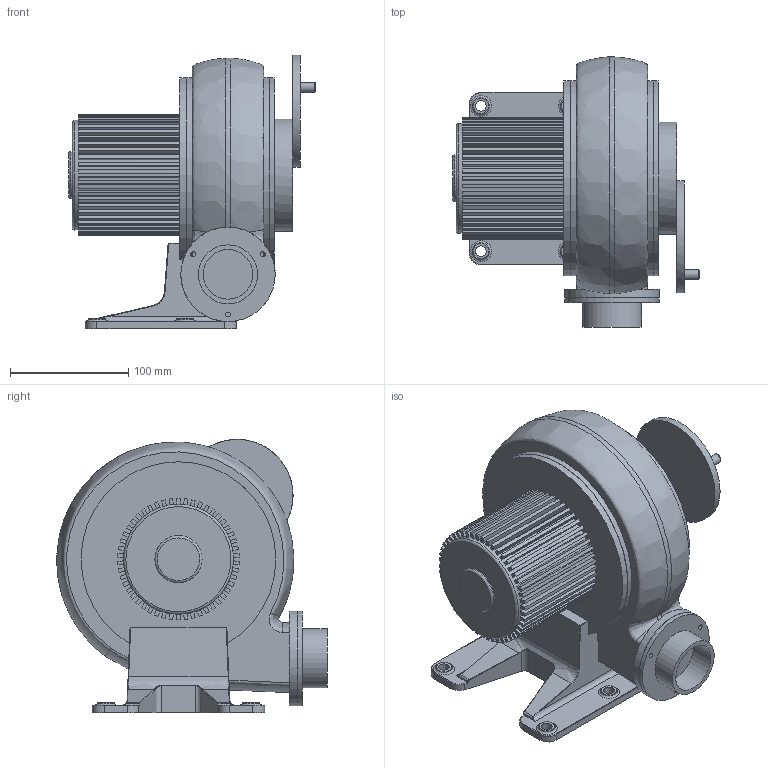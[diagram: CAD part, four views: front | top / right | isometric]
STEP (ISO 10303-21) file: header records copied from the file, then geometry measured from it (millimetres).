
FILE_DESCRIPTION(/* description */ ('Unknown'),/* implementation_level */ '2;1');
FILE_NAME(/* name */ '20200624 TS-200',/* time_stamp */ '2020-06-28T18:52:39+08:00',/* author */ ('å¤§èºè¨­è¨æéå¬å¸'),/* organization */ ('Unknown'),/* preprocessor_version */ 'ST-DEVELOPER v16.7',/* originating_system */ 'DEX',/* authorisation */ $);
FILE_SCHEMA (('AUTOMOTIVE_DESIGN {1 0 10303 214 3 1 1}'));
Length unit declared in the file: millimetre
Products named in the file (1): 20200624 TS-200
Bounding box: 209 x 229.04 x 231.5 mm (x, y, z)
Volume: 3431763.6 mm3; surface area: 260807.7 mm2
Topology: 1 solids, 1 shells, 378 faces, 1042 edges, 677 vertices
Faces by surface type: plane 250, cylinder 68, bspline 31, torus 19, cone 8, sphere 2
Full cylindrical faces by diameter (mm): 3 x3, 4.134 x3, 8 x1, 9 x4, 40 x1, 42 x1, 50 x1, 80 x2, 85 x1, 93 x1, 95 x2, 165 x2
Entity records: 17129 total; most frequent: CARTESIAN_POINT 5033, ORIENTED_EDGE 1988, DIRECTION 1898, EDGE_CURVE 994, VERTEX_POINT 668, AXIS2_PLACEMENT_3D 638, LINE 622, VECTOR 622
